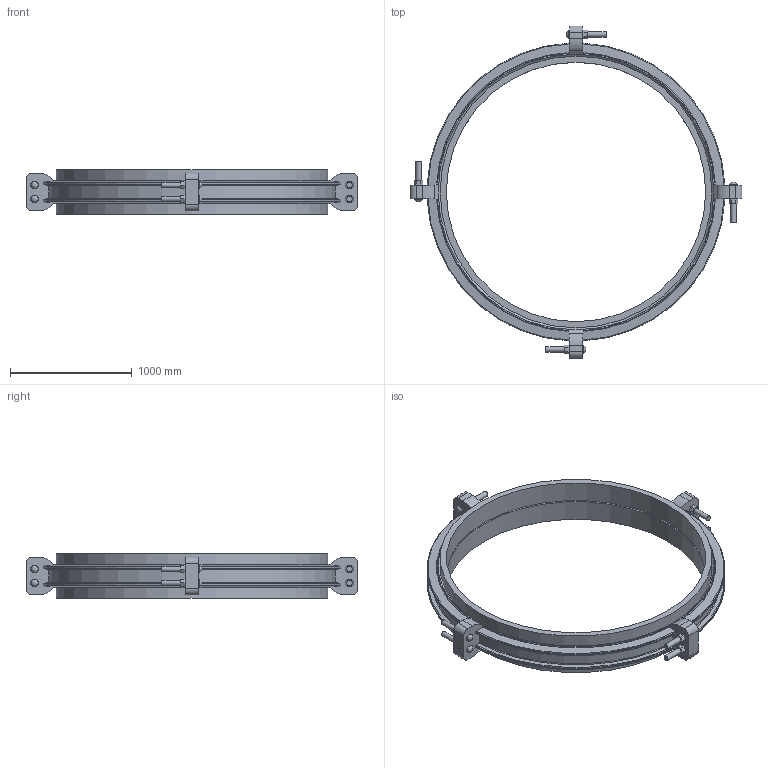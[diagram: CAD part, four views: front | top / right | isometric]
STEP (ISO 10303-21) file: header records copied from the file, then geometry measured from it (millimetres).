
FILE_DESCRIPTION(/* description */ ('VIC COUPLING FLEX STYLE W77 AGS VIC-RING ','CAx-IF Rec.Pracs.---Representation and Presentation of Product Manufacturing Information (PMI)---4.0---2014-10-13'),/* implementation_level */ '2;1');
FILE_NAME(/* name */ 'C:\Users\Vjadhav\AppData\Roaming\Autodesk\ApplicationPlugins\Victaulic.Temp\A52\Victaulic_Vic-Ring_Coupling Flexible_Style W77 (AGR)_88 (2200).stp',/* time_stamp */ '2021-12-20T11:07:58+06:00',/* author */ ('Vjadhav'),/* organization */ ('Victaulic'),/* preprocessor_version */ 'ST-DEVELOPER v17.2',/* originating_system */ 'Autodesk Inventor 2019',/* authorisation */ '');
FILE_SCHEMA (('AP242_MANAGED_MODEL_BASED_3D_ENGINEERING_MIM_LF { 1 0 10303 442 1 1 4 }'));
Length unit declared in the file: inch
Products named in the file (3): W77 VR-88.0; W77-VR-88.0; W77 VR-88.0_1
Assembly tree (3 placements, depth 2):
  W77 VR-88.0
    W77-VR-88.0
    W77 VR-88.0_1  x2
Bounding box: 2730.5 x 2730.5 x 367.54 mm (x, y, z)
Volume: 252224606.4 mm3; surface area: 12035824.9 mm2
Topology: 3 solids, 19 shells, 287 faces, 705 edges, 480 vertices
Faces by surface type: plane 138, cylinder 91, torus 32, cone 18, sphere 8
Full cylindrical faces by diameter (mm): 44.45 x8, 63.5 x8, 2133.6 x2, 2216.15 x1, 2235.2 x4
Entity records: 9773 total; most frequent: CARTESIAN_POINT 2608, DIRECTION 1433, ORIENTED_EDGE 1390, EDGE_CURVE 695, AXIS2_PLACEMENT_3D 545, VERTEX_POINT 472, LINE 343, VECTOR 343
